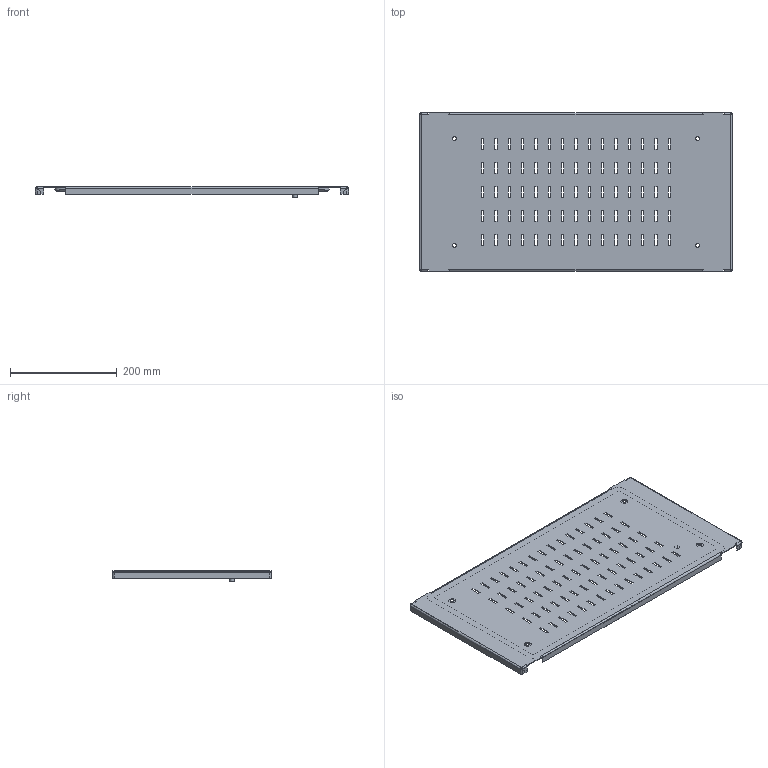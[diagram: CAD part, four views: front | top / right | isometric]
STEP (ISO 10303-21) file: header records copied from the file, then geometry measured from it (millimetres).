
FILE_DESCRIPTION(('STEP AP203'), '1');
FILE_NAME('Ïàíåëü ëèöåâàÿ ïåðôîðèðîâàííàÿ 300õ600 ìì OptiBox M 419521 ÊÝÀÇ', '', ('UNSPECIFIED'), ('UNSPECIFIED'), 'C3D Converter', 'C3D Toolkit', '');
FILE_SCHEMA(('CONFIG_CONTROL_DESIGN'));
Length unit declared in the file: millimetre
Bounding box: 586.4 x 297 x 18.9 mm (x, y, z)
Volume: 370650.4 mm3; surface area: 432549.6 mm2
Topology: 3 solids, 3 shells, 468 faces, 1285 edges, 830 vertices
Faces by surface type: plane 409, cylinder 51, bspline 8
Full cylindrical faces by diameter (mm): 0.75 x1, 1 x1, 5 x2, 7.3 x4, 8 x1, 9.3 x1, 13 x1, 13.5 x4
Entity records: 15940 total; most frequent: CARTESIAN_POINT 3805, ORIENTED_EDGE 2540, DIRECTION 2226, EDGE_CURVE 1270, LINE 1164, VECTOR 1164, VERTEX_POINT 830, EDGE_LOOP 654
